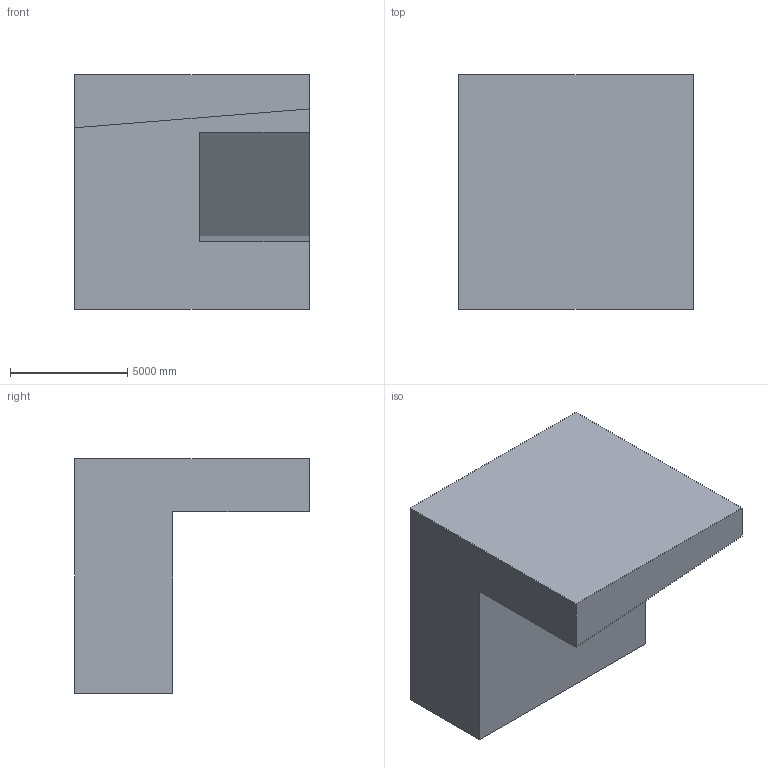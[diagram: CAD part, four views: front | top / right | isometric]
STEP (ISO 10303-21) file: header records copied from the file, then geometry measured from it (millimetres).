
FILE_DESCRIPTION (( 'STEP AP203' ), '1' );
FILE_NAME ('1069.STEP', '2022-08-18T12:38:20', ( 'user' ), ( '' ), 'SwSTEP 2.0', 'SolidWorks 2021', '' );
FILE_SCHEMA (( 'CONFIG_CONTROL_DESIGN' ));
Length unit declared in the file: centimetre
Products named in the file (1): 1069
Bounding box: 10000 x 10000 x 10000 mm (x, y, z)
Volume: 492173373934 mm3; surface area: 526080894.4 mm2
Topology: 1 solids, 1 shells, 14 faces, 36 edges, 24 vertices
Faces by surface type: plane 14
Entity records: 497 total; most frequent: CARTESIAN_POINT 75, ORIENTED_EDGE 72, DIRECTION 66, LINE 36, EDGE_CURVE 36, VECTOR 36, VERTEX_POINT 24, AXIS2_PLACEMENT_3D 15
